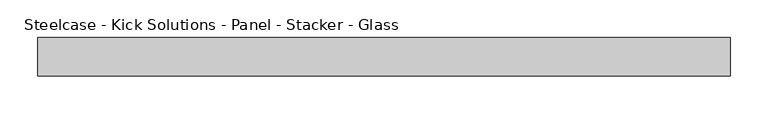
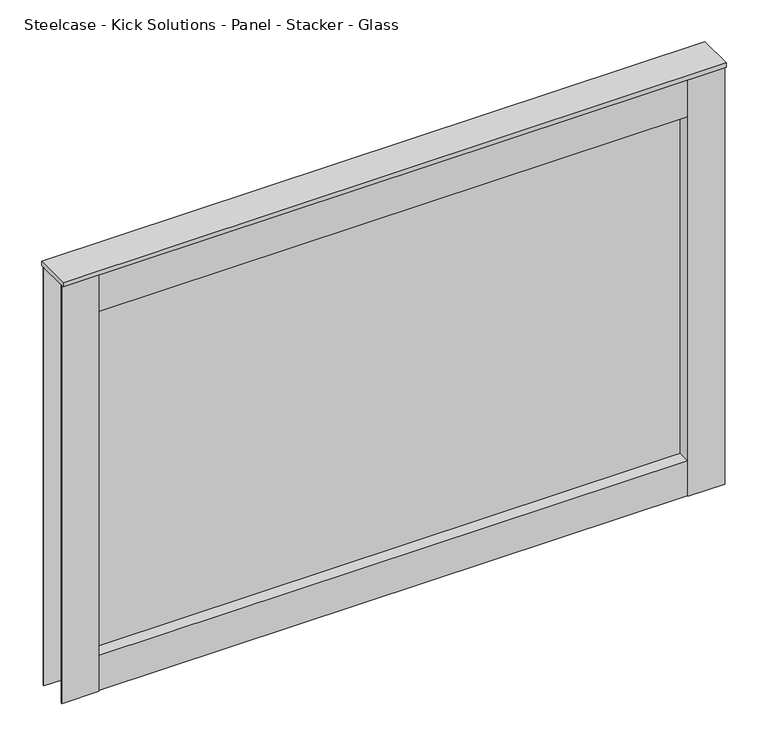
"""IFC4 building model written with IfcOpenShell, lengths in millimetres: furniture geometry, Steelcase - Kick Solutions - Panel - Stacker - Glass : 24H x 36W."""

from ifc_helpers import new_model, si_unit, frame, origin, place, context, project, spatial, polyline, outline, extrude, source, transform, mapped, element, save


def steelcase_kick_solutions_panel_stacker_glass_2173b258(model_context):
    return source(origin(), model_context, "Body", "SweptSolid", [
        extrude(outline(polyline([(863.6006661, -5.08), (863.6006661, -45.7200015), (50.8006646, -45.7200015), (50.8006646, -5.08), (863.6006661, -5.08)])), frame((0.0, 0.0, 1066.8), z_axis=(0.0, 0.0, 1.0), x_axis=(1.0, 0.0, 0.0)), (0.0, 0.0, 1.0), 50.6830951),
        extrude(outline(polyline([(863.6006661, -5.08), (863.6006661, -45.7200015), (50.8006646, -45.7200015), (50.8006646, -5.08), (863.6006661, -5.08)])), frame((0.0, 0.0, 1619.25), z_axis=(0.0, 0.0, 1.0), x_axis=(1.0, 0.0, 0.0)), (0.0, 0.0, 1.0), 57.15),
        extrude(outline(polyline([(50.8006646, -3.1743148), (50.8006646, -47.6243142), (0.0, -47.6243142), (0.0, -45.7200015), (47.7526646, -45.7200015), (47.7526646, -5.08), (0.0, -5.08), (0.0, -3.1743148), (50.8006646, -3.1743148)])), frame((0.0, 0.0, 1066.8), z_axis=(0.0, 0.0, 1.0), x_axis=(1.0, 0.0, 0.0)), (0.0, 0.0, 1.0), 609.6),
        extrude(outline(polyline([(863.6006661, -3.1743148), (914.4, -3.1743148), (914.4, -5.08), (866.6486661, -5.08), (866.6486661, -45.7200015), (914.4, -45.7200015), (914.4, -47.6243142), (863.6006661, -47.6243142), (863.6006661, -3.1743148)])), frame((0.0, 0.0, 1066.8), z_axis=(0.0, 0.0, 1.0), x_axis=(1.0, 0.0, 0.0)), (0.0, 0.0, 1.0), 609.6),
        extrude(outline(polyline([(863.6006661, -28.422537), (50.8006646, -28.422537), (50.8006646, -25.4), (863.6006661, -25.4), (863.6006661, -28.422537)])), frame((0.0, 0.0, 1117.4830951), z_axis=(0.0, 0.0, 1.0), x_axis=(1.0, 0.0, 0.0)), (0.0, 0.0, 1.0), 501.7669049),
        extrude(outline(polyline([(914.4, 0.0), (914.4, -50.8000015), (0.0, -50.8000015), (0.0, 0.0), (914.4, 0.0)])), frame((0.0, 0.0, 1676.4), z_axis=(0.0, 0.0, 1.0), x_axis=(1.0, 0.0, 0.0)), (0.0, 0.0, 1.0), 6.35),
    ])


if __name__ == "__main__":
    model = new_model("IFC4")
    model_context = context("Model", 3, world=origin())
    ifc_project = project(units=[si_unit("LENGTHUNIT", "METRE", prefix="MILLI")], contexts=[model_context])
    site = spatial("IfcSite", under=ifc_project)
    building = spatial("IfcBuilding", under=site)
    placement = place(None, origin())
    steelcase_kick_solutions_panel_stacker_glass_shape = steelcase_kick_solutions_panel_stacker_glass_2173b258(model_context)
    element("IfcFurniture", 1, ObjectType="Steelcase - Kick Solutions - Panel - Stacker - Glass : 24H x 36W", at=placement, inside=building, context=model_context, shape_type="MappedRepresentation", body=[
        mapped(steelcase_kick_solutions_panel_stacker_glass_shape, transform((0.0, 0.0, 0.0), x_axis=(1.0, 0.0, 0.0), y_axis=(0.0, 1.0, 0.0), z_axis=(0.0, 0.0, 1.0))),
    ])
    save(model, "model.ifc")
